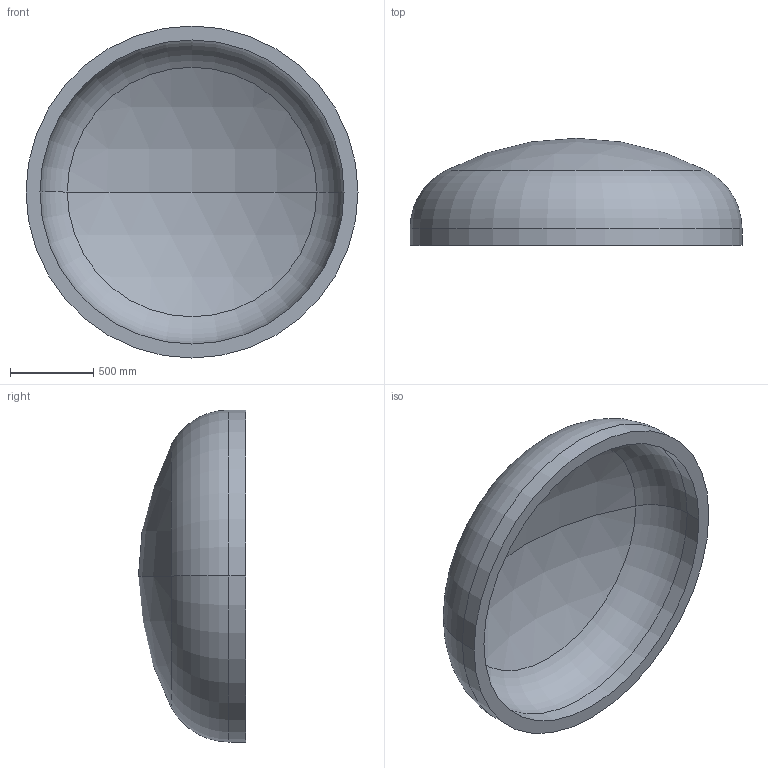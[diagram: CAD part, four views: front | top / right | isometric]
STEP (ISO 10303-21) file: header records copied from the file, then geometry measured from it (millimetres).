
FILE_DESCRIPTION (( 'STEP AP203' ), '1' );
FILE_NAME ('DIN 28013 Korbbogenform_-_Boden DIN 28013 - 2000 x 100 - I - s=84.step', '2016-07-01T14:05:20', ( '' ), ( '' ), 'SwSTEP 2.0', 'SolidWorks 2013', '' );
FILE_SCHEMA (( 'CONFIG_CONTROL_DESIGN' ));
Length unit declared in the file: millimetre
Products named in the file (1): DIN 28013 Korbbogenform_-_Boden DIN 28013 - 2000 x 100 - I - s=84
Bounding box: 2000 x 645.2 x 2000 mm (x, y, z)
Volume: 397181314.2 mm3; surface area: 9977093.8 mm2
Topology: 1 solids, 1 shells, 13 faces, 24 edges, 14 vertices
Faces by surface type: torus 4, cylinder 4, sphere 4, plane 1
Entity records: 407 total; most frequent: DIRECTION 72, CARTESIAN_POINT 52, ORIENTED_EDGE 48, AXIS2_PLACEMENT_3D 34, EDGE_CURVE 24, CIRCLE 20, VERTEX_POINT 14, EDGE_LOOP 14
